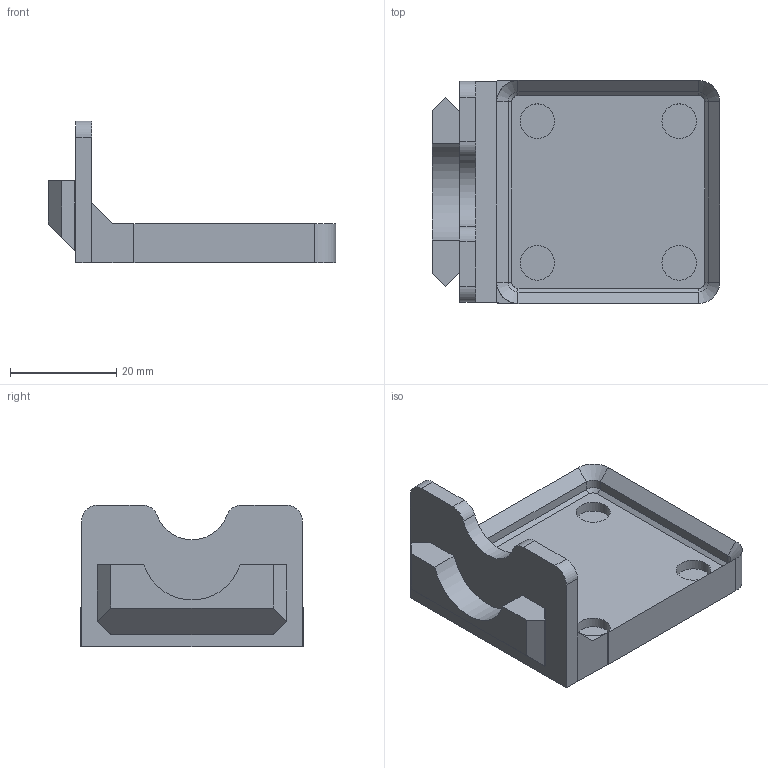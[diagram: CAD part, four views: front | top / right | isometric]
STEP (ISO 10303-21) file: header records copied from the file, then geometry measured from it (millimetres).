
FILE_DESCRIPTION(/* description */ ('','CAx-IF Rec.Pracs.---Representation and Presentation of Product Manufacturing Information (PMI)---4.0---2014-10-13'),/* implementation_level */ '2;1');
FILE_NAME(/* name */ 'Goews Single Hanger Gridfinity with Magnets 1x1 Base v6 (1).step',/* time_stamp */ '2024-12-14T22:28:23-05:00',/* author */ (''),/* organization */ (''),/* preprocessor_version */ 'ST-DEVELOPER v20',/* originating_system */ 'Autodesk Translation Framework v13.20.0.188',/* authorisation */ '');
FILE_SCHEMA (('AP242_MANAGED_MODEL_BASED_3D_ENGINEERING_MIM_LF { 1 0 10303 442 1 1 4 }'));
Length unit declared in the file: millimetre
Products named in the file (1): Goews Single Hanger Gridfinity  with Magnets 1x1 Base v6 (1)
Bounding box: 54.15 x 42 x 26.72 mm (x, y, z)
Volume: 11869.2 mm3; surface area: 7962.8 mm2
Topology: 1 solids, 1 shells, 70 faces, 159 edges, 96 vertices
Faces by surface type: plane 44, cylinder 18, cone 8
Full cylindrical faces by diameter (mm): 6.5 x4
Entity records: 1958 total; most frequent: DIRECTION 343, CARTESIAN_POINT 326, ORIENTED_EDGE 318, EDGE_CURVE 159, LINE 117, VECTOR 117, AXIS2_PLACEMENT_3D 113, VERTEX_POINT 96
